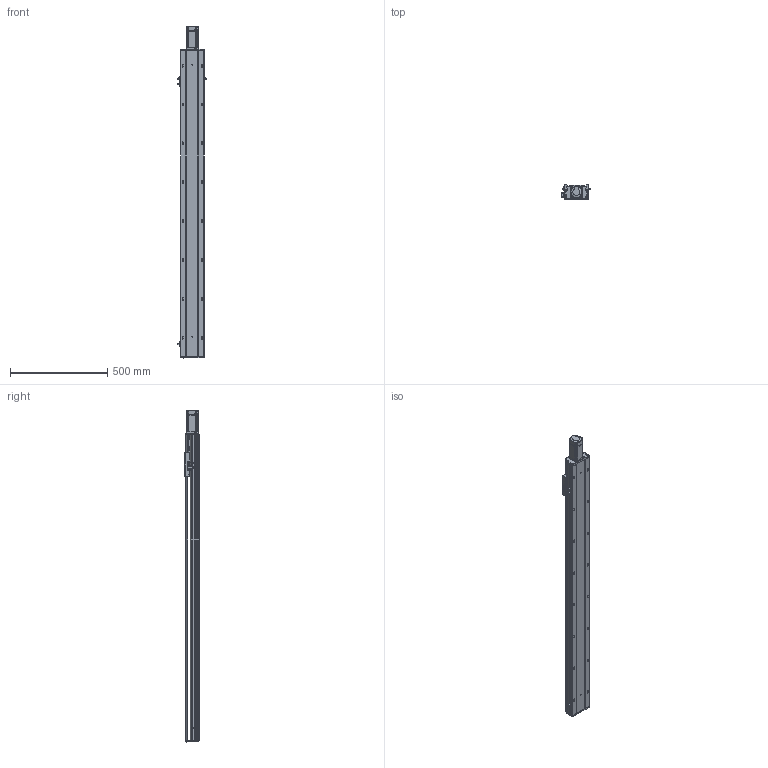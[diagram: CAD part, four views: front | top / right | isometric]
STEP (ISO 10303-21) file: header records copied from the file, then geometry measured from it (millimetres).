
FILE_DESCRIPTION (( 'STEP AP203' ), '1' );
FILE_NAME ('RYK120-L1610-S1300-M40-C3-MK.STEP', '2026-03-09T07:11:38', ( '' ), ( '' ), 'SwSTEP 2.0', 'SolidWorks 2016', '' );
FILE_SCHEMA (( 'CONFIG_CONTROL_DESIGN' ));
Length unit declared in the file: millimetre
Products named in the file (17): 44-49-12-14; RYK120-L1610-S1300-M40-C3-MK; RYK120-300-MK-奻裔啣-啞_1300; 覜茼ん672; 滅袉蝶18-10; RY120綴裔啣; RYK170-薊粣ん芵隴裔啣; CB╱T 3762-1996[锥形润滑油嘴1-ZM10×1]_1-ZM10×1; 滅袉蝶18-24; 15; RY120-16螺母油路-集中注油组合; RYK120-300-MK-菁釱-啞_1300; RY120QGB-1.8; RY120电机端支撑座-压铸加工-M5; 侂狟400W侜督萇儂; RY120外置感应片(140共用）; 2.10.1.C521-V1.0RY120臏賑輸16蹟譫-啞-JZZY-NRL-L1899
Assembly tree (21 placements, depth 3):
  RYK120-L1610-S1300-M40-C3-MK
    RYK120-300-MK-菁釱-啞_1300
    RYK120-300-MK-奻裔啣-啞_1300
    RY120綴裔啣
    滅袉蝶18-24  x2
    滅袉蝶18-10  x2
    覜茼ん672  x3
    RY120外置感应片(140共用）
    RY120QGB-1.8
    RY120-16螺母油路-集中注油组合
      2.10.1.C521-V1.0RY120臏賑輸16蹟譫-啞-JZZY-NRL-L1899
      CB╱T 3762-1996[锥形润滑油嘴1-ZM10×1]_1-ZM10×1  x2
    RY120电机端支撑座-压铸加工-M5
    RYK170-薊粣ん芵隴裔啣
    44-49-12-14
    侂狟400W侜督萇儂
      15
Bounding box: 145.7 x 73 x 1708.5 mm (x, y, z)
Volume: 4359104 mm3; surface area: 1573528.9 mm2
Topology: 23 solids, 23 shells, 2708 faces, 7514 edges, 4783 vertices
Faces by surface type: plane 1211, cylinder 1069, cone 301, bspline 127
Entity records: 90168 total; most frequent: CARTESIAN_POINT 26016, ORIENTED_EDGE 13464, DIRECTION 12387, EDGE_CURVE 6732, VERTEX_POINT 4395, AXIS2_PLACEMENT_3D 4278, VECTOR 3831, LINE 3831
